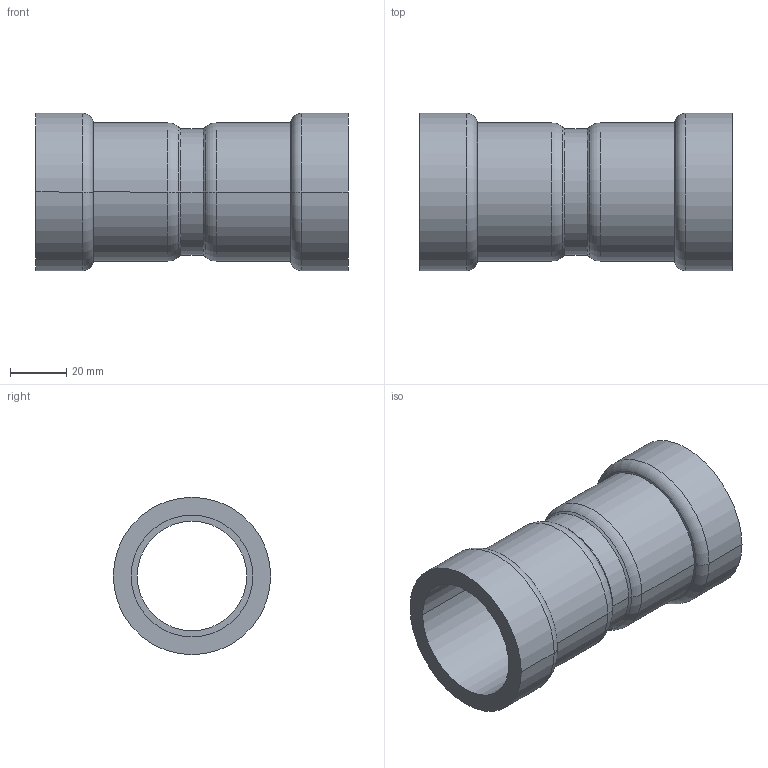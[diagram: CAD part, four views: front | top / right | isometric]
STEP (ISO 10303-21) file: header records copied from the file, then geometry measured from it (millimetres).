
FILE_DESCRIPTION(('Creo Elements/Direct Modeling STEP Export'),'2;1');
FILE_NAME('C9401_1_1-4.stp','2020-06-08T10:45:31',(''),(''),'PTC Creo Elements/Direct Modeling STEP processor for AP214 (Solid Model)','PTC Creo Elements/Direct Modeling 19.0C 15-Aug-2015 (C) Parametric Technology GmbH','');
FILE_SCHEMA(('AUTOMOTIVE_DESIGN { 1 0 10303 214 1 1 1 1 }'));
Length unit declared in the file: millimetre
Products named in the file (2): 9401_1_1-4
Assembly tree (1 placements, depth 2):
  9401_1_1-4
    9401_1_1-4
Bounding box: 111.04 x 56 x 56 mm (x, y, z)
Volume: 69255.2 mm3; surface area: 36042.3 mm2
Topology: 1 solids, 1 shells, 36 faces, 72 edges, 40 vertices
Faces by surface type: cylinder 16, torus 8, cone 8, plane 4
Entity records: 881 total; most frequent: DIRECTION 156, ORIENTED_EDGE 144, CARTESIAN_POINT 130, EDGE_CURVE 72, AXIS2_PLACEMENT_3D 66, VERTEX_POINT 40, EDGE_LOOP 40, FACE_OUTER_BOUND 36
